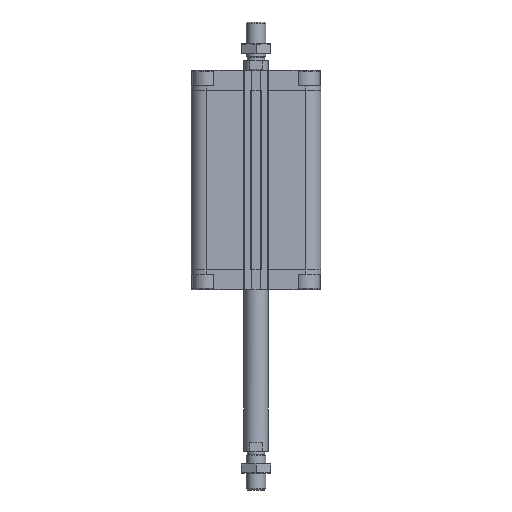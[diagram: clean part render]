
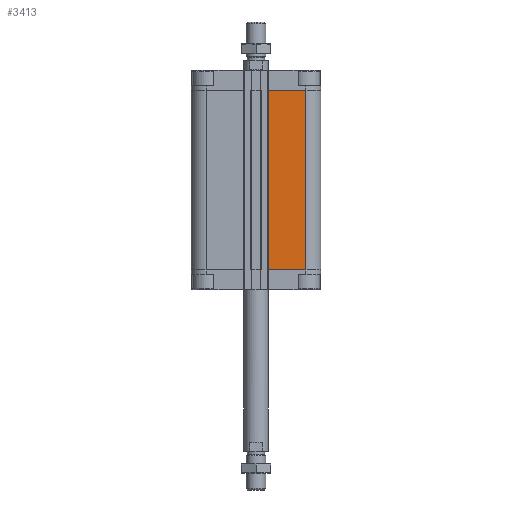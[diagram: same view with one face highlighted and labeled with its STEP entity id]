
A CAD part, front view. The second image highlights one B-rep face of the part: STEP entity #3413.
In plain terms, the highlighted planar face has unit normal (0, -1, 0).
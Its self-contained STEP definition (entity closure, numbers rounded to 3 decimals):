
#594 = CARTESIAN_POINT ( 'NONE',  ( 9.95, -53.5, -16.5 ) ) ;
#1117 = CARTESIAN_POINT ( 'NONE',  ( 9.95, -53.5, -16.5 ) ) ;
#1211 = DIRECTION ( 'NONE',  ( 1., 0., 0. ) ) ;
#1280 = VERTEX_POINT ( 'NONE', #14865 ) ;
#1353 = LINE ( 'NONE', #1117, #11903 ) ;
#3115 = DIRECTION ( 'NONE',  ( -1., 0., 0. ) ) ;
#3279 = LINE ( 'NONE', #10331, #9059 ) ;
#3328 = CARTESIAN_POINT ( 'NONE',  ( 9.95, -53.5, -164.5 ) ) ;
#3413 = ADVANCED_FACE ( 'NONE', ( #21413 ), #3791, .T. ) ;
#3791 = PLANE ( 'NONE',  #8275 ) ;
#3925 = VECTOR ( 'NONE', #1211, 1000. ) ;
#4487 = DIRECTION ( 'NONE',  ( 0., 0., 1. ) ) ;
#4684 = EDGE_CURVE ( 'NONE', #21915, #1280, #1353, .T. ) ;
#4848 = CARTESIAN_POINT ( 'NONE',  ( 9.95, -53.5, -164.5 ) ) ;
#5448 = ORIENTED_EDGE ( 'NONE', *, *, #9840, .T. ) ;
#5895 = ORIENTED_EDGE ( 'NONE', *, *, #7499, .T. ) ;
#5903 = ORIENTED_EDGE ( 'NONE', *, *, #4684, .F. ) ;
#6512 = EDGE_LOOP ( 'NONE', ( #5903, #22830, #5448, #5895 ) ) ;
#6675 = DIRECTION ( 'NONE',  ( 1., 0., 0. ) ) ;
#7499 = EDGE_CURVE ( 'NONE', #9505, #1280, #18630, .T. ) ;
#8275 = AXIS2_PLACEMENT_3D ( 'NONE', #4848, #22701, #3115 ) ;
#9059 = VECTOR ( 'NONE', #14144, 1000. ) ;
#9505 = VERTEX_POINT ( 'NONE', #19331 ) ;
#9600 = CARTESIAN_POINT ( 'NONE',  ( 41., -53.5, -164.5 ) ) ;
#9840 = EDGE_CURVE ( 'NONE', #12560, #9505, #13845, .T. ) ;
#10331 = CARTESIAN_POINT ( 'NONE',  ( 9.95, -53.5, -164.5 ) ) ;
#11865 = VECTOR ( 'NONE', #4487, 1000. ) ;
#11903 = VECTOR ( 'NONE', #6675, 1000. ) ;
#12560 = VERTEX_POINT ( 'NONE', #22111 ) ;
#13436 = EDGE_CURVE ( 'NONE', #12560, #21915, #3279, .T. ) ;
#13845 = LINE ( 'NONE', #3328, #3925 ) ;
#14144 = DIRECTION ( 'NONE',  ( 0., 0., 1. ) ) ;
#14865 = CARTESIAN_POINT ( 'NONE',  ( 41., -53.5, -16.5 ) ) ;
#18630 = LINE ( 'NONE', #9600, #11865 ) ;
#19331 = CARTESIAN_POINT ( 'NONE',  ( 41., -53.5, -164.5 ) ) ;
#21413 = FACE_OUTER_BOUND ( 'NONE', #6512, .T. ) ;
#21915 = VERTEX_POINT ( 'NONE', #594 ) ;
#22111 = CARTESIAN_POINT ( 'NONE',  ( 9.95, -53.5, -164.5 ) ) ;
#22701 = DIRECTION ( 'NONE',  ( 0., -1., 0. ) ) ;
#22830 = ORIENTED_EDGE ( 'NONE', *, *, #13436, .F. ) ;
